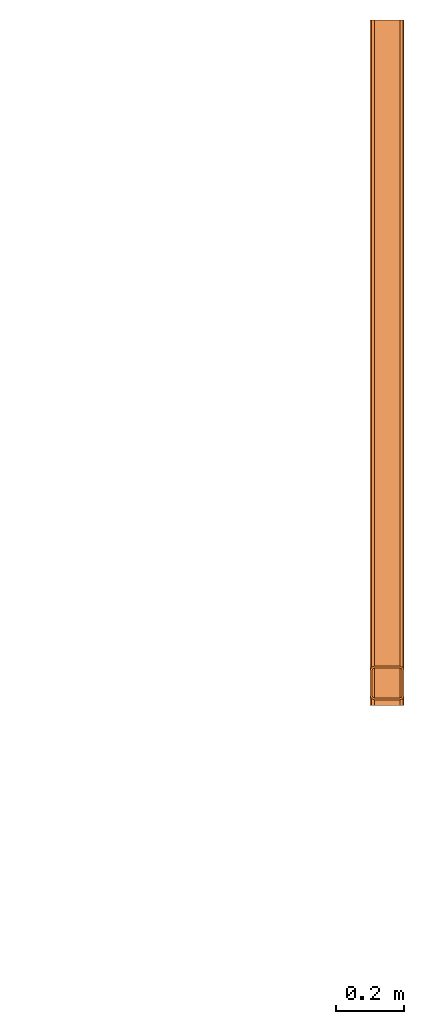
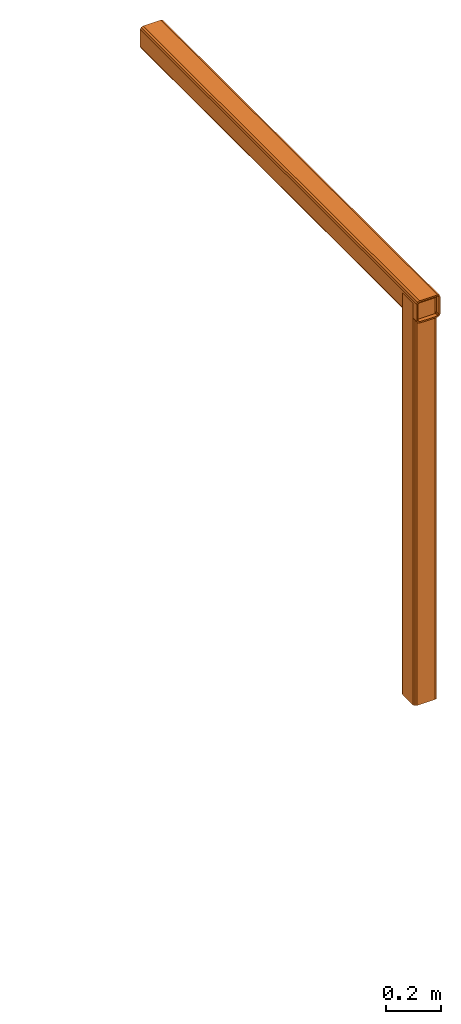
# One storey, part 2 of 2: 2 proxies.
"""IFC2X3 building model written with IfcOpenShell, lengths in millimetres."""

from ifc_helpers import new_model, entity, si_unit, converted_unit, derived_unit, money_unit, direction, frame, origin_with_axes, place, context, subcontext, project, spatial, faceted_brep, material, type_object, element, save


model = new_model("IFC2X3")

# Units and contexts
model_context = context("Model", 3, precision=0.01, world=origin_with_axes(), true_north=direction((0.0, 1.0)))
body_context = subcontext(model_context, "Body", "Model", "MODEL_VIEW")
ifc_project = project(units=[si_unit("LENGTHUNIT", "METRE", prefix="MILLI"), si_unit("AREAUNIT", "SQUARE_METRE"), si_unit("VOLUMEUNIT", "CUBIC_METRE"), converted_unit("PLANEANGLEUNIT", "DEGREE", entity("IfcPlaneAngleMeasure", 0.0174532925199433), si_unit("PLANEANGLEUNIT", "RADIAN"), dimensions=[0, 0, 0, 0, 0, 0, 0]), money_unit("EUR"), converted_unit("TIMEUNIT", "Year", entity("IfcTimeMeasure", 31557600.0), si_unit("TIMEUNIT", "SECOND"), dimensions=[0, 0, 1, 0, 0, 0, 0]), si_unit("MASSUNIT", "GRAM", prefix="KILO"), si_unit("THERMODYNAMICTEMPERATUREUNIT", "DEGREE_CELSIUS"), si_unit("LUMINOUSINTENSITYUNIT", "LUMEN"), si_unit("ENERGYUNIT", "JOULE", prefix="MEGA"), derived_unit("THERMALCONDUCTANCEUNIT", [(si_unit("POWERUNIT", "WATT"), 1), (si_unit("LENGTHUNIT", "METRE"), -1), (si_unit("THERMODYNAMICTEMPERATUREUNIT", "KELVIN"), -1)]), derived_unit("SPECIFICHEATCAPACITYUNIT", [(si_unit("ENERGYUNIT", "JOULE"), 1), (si_unit("MASSUNIT", "GRAM", prefix="KILO"), -1), (si_unit("THERMODYNAMICTEMPERATUREUNIT", "KELVIN"), -1)]), derived_unit("MASSDENSITYUNIT", [(si_unit("MASSUNIT", "GRAM", prefix="KILO"), 1), (si_unit("VOLUMEUNIT", "CUBIC_METRE"), -1)])], contexts=[model_context])

# Site, building, storey
site_placement = place(None, frame((0.0, 0.0, 8650.0), z_axis=(0.0, 0.0, 1.0), x_axis=(1.0, 0.0, 0.0)))
site = spatial("IfcSite", under=ifc_project, at=site_placement, Name="43301:001:0844", CompositionType="ELEMENT")
building_placement = place(site_placement, origin_with_axes())
building = spatial("IfcBuilding", under=site, at=building_placement, Name="Kuressaare Ametikooli tuulikute mehaanikute õppekorpus", CompositionType="ELEMENT")
storey_placement = place(building_placement, frame((0.0, 0.0, -8650.0), z_axis=(0.0, 0.0, 1.0), x_axis=(1.0, 0.0, 0.0)))
storey = spatial("IfcBuildingStorey", under=building, at=storey_placement, Name="Merepind", CompositionType="ELEMENT", Elevation=-8650.0)

# Proxies
ifc_material = material(Name="STEEL/S355")
building_element_proxy_type = type_object("IfcBuildingElementProxyType", Name="RHS100*6 100 x 100", PredefinedType="NOTDEFINED")
proxy_1_placement = place(storey_placement, frame((111642.105861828, 26317.19060642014, 10423.1902873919), z_axis=(0.0, 0.0, 1.0), x_axis=(1.0, 0.0, 0.0)))
element("IfcBuildingElementProxy", 1, at=proxy_1_placement, inside=storey, type_object=building_element_proxy_type, material=ifc_material, Name="TERASTALA", context=body_context, shape_type="Brep", body=[
    faceted_brep([(37.99999998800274, 23.38746303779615, -50.00000000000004), (37.99999998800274, 111.3874630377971, -50.00000000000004), (42.24264067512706, 109.6301037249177, -48.24264069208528), (43.99999998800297, 105.3874630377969, -47.51471863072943), (43.99999998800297, 29.38746303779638, -47.51471863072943), (42.24264067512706, 25.14482235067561, -48.24264069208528), (-38.00000001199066, 23.38746303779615, -50.00000000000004), (-38.00000001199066, 111.3874630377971, -50.00000000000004), (37.99999998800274, 111.3874630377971, -44.00000000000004), (42.24264067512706, 109.6301037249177, -42.24264068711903), (43.99999998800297, 105.3874630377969, -38.00000000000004), (43.99999998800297, 29.38746303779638, -38.00000000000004), (42.24264067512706, 25.14482235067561, -42.24264068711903), (37.99999998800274, 23.38746303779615, -44.00000000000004), (-44.00000001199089, 105.3874630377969, -47.51471862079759), (-42.24264069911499, 109.6301037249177, -48.24264068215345), (-42.24264069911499, 25.14482235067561, -48.24264068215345), (-44.00000001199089, 29.38746303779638, -47.51471862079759), (-38.00000001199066, 111.3874630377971, -44.00000000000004), (-38.00000001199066, 23.38746303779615, -44.00000000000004), (-44.00000001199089, 105.3874630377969, -38.00000000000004), (-42.24264069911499, 109.6301037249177, -42.24264068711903), (-42.24264069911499, 25.14482235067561, -42.24264068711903), (-44.00000001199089, 29.38746303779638, -38.00000000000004)], [[[0, 1, 2, 3, 4, 5]], [[6, 7, 1, 0]], [[1, 8, 9, 2]], [[2, 9, 10, 3]], [[3, 10, 11, 4]], [[4, 11, 12, 5]], [[5, 12, 13, 0]], [[14, 15, 7, 6, 16, 17]], [[7, 18, 8, 1]], [[0, 13, 19, 6]], [[8, 13, 12, 9]], [[9, 12, 11, 10]], [[14, 20, 21, 15]], [[15, 21, 18, 7]], [[6, 19, 22, 16]], [[16, 22, 23, 17]], [[17, 23, 20, 14]], [[18, 19, 13, 8]], [[20, 23, 22, 21]], [[21, 22, 19, 18]]]),
    faceted_brep([(43.99999998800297, 29.38746303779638, 26.80971260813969), (43.99999999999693, 19.87274441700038, 26.80971260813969), (43.99999999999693, 19.87274441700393, -38.00000000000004), (43.99999999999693, 0.0, -38.00000000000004), (43.99999999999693, 0.0, 38.00000000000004), (43.99999999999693, 2030.000000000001, 38.00000000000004), (43.99999999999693, 2030.000000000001, -38.00000000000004), (43.99999999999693, 114.9021816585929, -38.00000000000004), (43.99999999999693, 114.9021816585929, 26.80971260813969), (43.99999998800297, 105.3874630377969, 26.80971260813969), (46.48528136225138, 113.8727444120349, 26.80971260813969), (49.9999999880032, 105.3874630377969, 26.80971260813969), (49.9999999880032, 29.38746303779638, 26.80971260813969), (46.48528136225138, 20.90218166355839, 26.80971260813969), (46.48528136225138, 20.90218166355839, -46.48528137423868), (37.99999998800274, 17.38746303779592, -50.00000000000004), (37.99999998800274, 17.38746303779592, -44.00000000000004), (42.24264068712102, 19.14482235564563, -42.24264068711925), (42.24264068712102, 0.0, -42.24264068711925), (46.48528137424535, 0.0, -46.48528137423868), (49.99999999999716, 0.0, -38.00000000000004), (49.99999999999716, 0.0, 38.00000000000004), (46.48528137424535, 0.0, 46.48528137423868), (37.9999999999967, 0.0, 50.00000000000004), (-37.9999999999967, 0.0, 50.00000000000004), (-46.48528137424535, 0.0, 46.48528137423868), (-49.99999999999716, 0.0, 38.00000000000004), (-49.99999999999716, 0.0, -38.00000000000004), (-46.48528137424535, 0.0, -46.48528137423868), (-37.9999999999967, 0.0, -50.00000000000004), (37.9999999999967, 0.0, -50.00000000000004), (37.9999999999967, 0.0, 44.00000000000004), (42.24264068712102, 0.0, 42.24264068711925), (37.9999999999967, 0.0, -44.00000000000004), (-37.9999999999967, 0.0, -44.00000000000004), (-42.24264068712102, 0.0, -42.24264068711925), (-43.99999999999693, 0.0, -38.00000000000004), (-43.99999999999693, 0.0, 38.00000000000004), (-42.24264068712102, 0.0, 42.24264068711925), (-37.9999999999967, 0.0, 44.00000000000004), (42.24264068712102, 2030.000000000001, 42.24264068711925), (37.9999999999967, 2030.000000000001, 50.00000000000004), (46.48528137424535, 2030.000000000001, 46.48528137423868), (49.99999999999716, 2030.000000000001, 38.00000000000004), (49.99999999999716, 2030.000000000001, -38.00000000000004), (46.48528137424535, 2030.000000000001, -46.48528137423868), (37.9999999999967, 2030.000000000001, -50.00000000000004), (-37.9999999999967, 2030.000000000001, -50.00000000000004), (-46.48528137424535, 2030.000000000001, -46.48528137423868), (-49.99999999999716, 2030.000000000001, -38.00000000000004), (-49.99999999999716, 2030.000000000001, 38.00000000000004), (-46.48528137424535, 2030.000000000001, 46.48528137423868), (-37.9999999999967, 2030.000000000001, 50.00000000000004), (42.24264068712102, 2030.000000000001, -42.24264068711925), (37.9999999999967, 2030.000000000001, 44.00000000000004), (-37.9999999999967, 2030.000000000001, 44.00000000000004), (-42.24264068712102, 2030.000000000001, 42.24264068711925), (-43.99999999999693, 2030.000000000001, 38.00000000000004), (-43.99999999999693, 2030.000000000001, -38.00000000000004), (-42.24264068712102, 2030.000000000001, -42.24264068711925), (-37.9999999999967, 2030.000000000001, -44.00000000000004), (37.9999999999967, 2030.000000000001, -44.00000000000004), (42.24264068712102, 115.6301037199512, -42.24264068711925), (37.99999998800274, 117.3874630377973, -44.00000000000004), (37.99999998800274, 117.3874630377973, -50.00000000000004), (46.48528136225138, 113.8727444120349, -46.48528137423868), (49.9999999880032, 105.3874630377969, -38.00000000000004), (49.9999999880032, 29.38746303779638, -38.00000000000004), (-38.00000001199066, 17.38746303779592, -50.00000000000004), (-38.00000001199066, 17.38746303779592, -44.00000000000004), (-50.00000001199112, 105.3874630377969, 26.80971260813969), (-50.00000001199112, 29.38746303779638, 26.80971260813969), (-50.00000001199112, 29.38746303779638, -38.00000000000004), (-50.00000001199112, 105.3874630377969, -38.00000000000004), (-46.48528138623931, 20.90218166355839, -46.48528137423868), (-42.24264068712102, 19.14482234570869, -42.24264068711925), (-43.99999999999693, 19.87274440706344, -38.00000000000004), (-44.00000001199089, 105.3874630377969, 26.80971260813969), (-43.99999999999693, 114.9021816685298, 26.80971260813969), (-43.99999999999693, 114.9021816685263, -38.00000000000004), (-43.99999999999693, 19.87274440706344, 26.80971260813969), (-44.00000001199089, 29.38746303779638, 26.80971260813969), (-38.00000001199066, 117.3874630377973, -50.00000000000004), (-46.48528138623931, 113.8727444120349, -46.48528137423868), (-42.24264068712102, 115.630103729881, -42.24264068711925), (-38.00000001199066, 117.3874630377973, -44.00000000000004), (-46.48528138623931, 20.90218166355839, 26.80971260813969), (-46.48528138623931, 113.8727444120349, 26.80971260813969)], [[[0, 1, 2, 3, 4, 5, 6, 7, 8, 9]], [[10, 11, 12, 13, 1, 0, 9, 8]], [[13, 14, 15, 16, 17, 2, 1]], [[3, 2, 17, 18]], [[19, 20, 21, 22, 23, 24, 25, 26, 27, 28, 29, 30], [31, 32, 4, 3, 18, 33, 34, 35, 36, 37, 38, 39]], [[4, 32, 40, 5]], [[41, 42, 43, 44, 45, 46, 47, 48, 49, 50, 51, 52], [53, 6, 5, 40, 54, 55, 56, 57, 58, 59, 60, 61]], [[53, 62, 7, 6]], [[63, 64, 65, 10, 8, 7, 62]], [[65, 66, 11, 10]], [[20, 67, 12, 11, 66, 44, 43, 21]], [[13, 12, 67, 14]], [[30, 15, 14, 19]], [[68, 69, 16, 15]], [[18, 17, 16, 33]], [[19, 14, 67, 20]], [[22, 21, 43, 42]], [[23, 22, 42, 41]], [[24, 23, 41, 52]], [[25, 24, 52, 51]], [[26, 25, 51, 50]], [[70, 71, 72, 27, 26, 50, 49, 73]], [[27, 72, 74, 28]], [[28, 74, 68, 29]], [[29, 68, 15, 30]], [[32, 31, 54, 40]], [[33, 16, 69, 34]], [[34, 69, 75, 35]], [[35, 75, 76, 36]], [[77, 78, 79, 58, 57, 37, 36, 76, 80, 81]], [[38, 37, 57, 56]], [[39, 38, 56, 55]], [[31, 39, 55, 54]], [[44, 66, 65, 45]], [[45, 65, 64, 46]], [[46, 64, 82, 47]], [[47, 82, 83, 48]], [[48, 83, 73, 49]], [[58, 79, 84, 59]], [[59, 84, 85, 60]], [[60, 85, 63, 61]], [[61, 63, 62, 53]], [[64, 63, 85, 82]], [[76, 75, 69, 68, 74, 86, 80]], [[87, 78, 77, 81, 80, 86, 71, 70]], [[86, 74, 72, 71]], [[70, 73, 83, 87]], [[82, 85, 84, 79, 78, 87, 83]]]),
])
proxy_2_placement = place(storey_placement, frame((111642.105861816, 26384.57806945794, 8650.00000000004), z_axis=(0.0, 0.0, 1.0), x_axis=(-1.0, 0.0, 0.0)))
element("IfcBuildingElementProxy", 2, at=proxy_2_placement, inside=storey, type_object=building_element_proxy_type, material=ifc_material, Name="TERAS_POST", context=body_context, shape_type="Brep", body=[
    faceted_brep([(-46.48528137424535, 46.48528137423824, 1800.000000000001), (-37.9999999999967, 50.00000000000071, 1800.000000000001), (-37.9999999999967, 50.00000000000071, 0.0), (-46.48528137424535, 46.48528137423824, 0.0), (46.48528137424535, 46.48528137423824, 1800.000000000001), (37.9999999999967, 50.00000000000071, 1800.000000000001), (-49.99999999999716, 38.00000000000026, 1800.000000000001), (-49.99999999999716, -38.00000000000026, 1800.000000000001), (-46.48528137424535, -46.48528137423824, 1800.000000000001), (-37.9999999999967, -50.00000000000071, 1800.000000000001), (37.9999999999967, -50.00000000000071, 1800.000000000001), (46.48528137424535, -46.48528137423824, 1800.000000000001), (49.99999999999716, -38.00000000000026, 1800.000000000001), (49.99999999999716, 38.00000000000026, 1800.000000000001), (-37.9999999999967, 44.00000000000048, 1800.000000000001), (37.9999999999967, 44.00000000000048, 1800.000000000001), (42.24264068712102, 42.24264068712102, 1800.000000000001), (43.99999999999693, 38.00000000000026, 1800.000000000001), (43.99999999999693, -38.00000000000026, 1800.000000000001), (42.24264068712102, -42.24264068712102, 1800.000000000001), (37.9999999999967, -44.00000000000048, 1800.000000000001), (-37.9999999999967, -44.00000000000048, 1800.000000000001), (-42.24264068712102, -42.24264068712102, 1800.000000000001), (-43.99999999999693, -38.00000000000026, 1800.000000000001), (-43.99999999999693, 38.00000000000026, 1800.000000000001), (-42.24264068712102, 42.24264068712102, 1800.000000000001), (37.9999999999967, 50.00000000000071, 0.0), (-49.99999999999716, 38.00000000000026, 0.0), (46.48528137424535, 46.48528137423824, 0.0), (49.99999999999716, 38.00000000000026, 0.0), (49.99999999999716, -38.00000000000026, 0.0), (46.48528137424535, -46.48528137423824, 0.0), (37.9999999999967, -50.00000000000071, 0.0), (-37.9999999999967, -50.00000000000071, 0.0), (-46.48528137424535, -46.48528137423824, 0.0), (-49.99999999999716, -38.00000000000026, 0.0), (43.99999999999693, -38.00000000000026, 0.0), (43.99999999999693, 38.00000000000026, 0.0), (42.24264068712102, 42.24264068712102, 0.0), (37.9999999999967, 44.00000000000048, 0.0), (-37.9999999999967, 44.00000000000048, 0.0), (-42.24264068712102, 42.24264068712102, 0.0), (-43.99999999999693, 38.00000000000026, 0.0), (-43.99999999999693, -38.00000000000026, 0.0), (-42.24264068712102, -42.24264068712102, 0.0), (-37.9999999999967, -44.00000000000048, 0.0), (37.9999999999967, -44.00000000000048, 0.0), (42.24264068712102, -42.24264068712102, 0.0)], [[[0, 1, 2, 3]], [[4, 5, 1, 0, 6, 7, 8, 9, 10, 11, 12, 13], [14, 15, 16, 17, 18, 19, 20, 21, 22, 23, 24, 25]], [[1, 5, 26, 2]], [[27, 3, 2, 26, 28, 29, 30, 31, 32, 33, 34, 35], [36, 37, 38, 39, 40, 41, 42, 43, 44, 45, 46, 47]], [[6, 0, 3, 27]], [[5, 4, 28, 26]], [[7, 6, 27, 35]], [[8, 7, 35, 34]], [[9, 8, 34, 33]], [[10, 9, 33, 32]], [[11, 10, 32, 31]], [[12, 11, 31, 30]], [[13, 12, 30, 29]], [[4, 13, 29, 28]], [[15, 14, 40, 39]], [[16, 15, 39, 38]], [[17, 16, 38, 37]], [[18, 17, 37, 36]], [[19, 18, 36, 47]], [[20, 19, 47, 46]], [[21, 20, 46, 45]], [[22, 21, 45, 44]], [[23, 22, 44, 43]], [[24, 23, 43, 42]], [[25, 24, 42, 41]], [[14, 25, 41, 40]]]),
])

save(model, "model.ifc")
